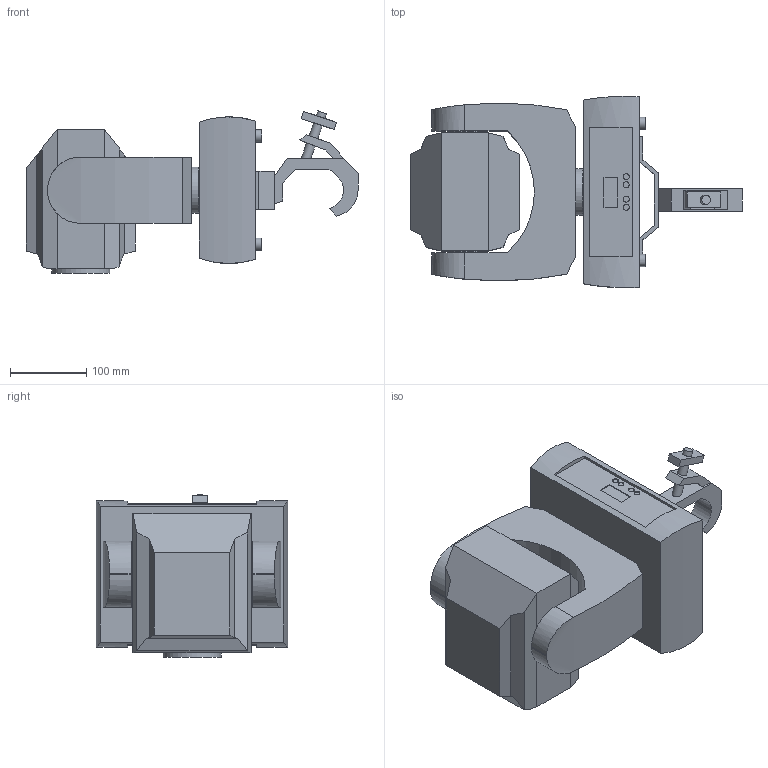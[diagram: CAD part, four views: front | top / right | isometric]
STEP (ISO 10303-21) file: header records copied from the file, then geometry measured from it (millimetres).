
FILE_DESCRIPTION( ( 'Unknown' ), '1' );
FILE_NAME( 'K:/Řada Digital/14 Robin MiniMe/08 3D_2D symbol/3D_RobinMiniMe_90.stp', 'Unknown', ( '*' ), ( '*' ), 'PSStep 15.0.49', 'SolidEdge', ' ' );
FILE_SCHEMA( ( 'AUTOMOTIVE_DESIGN { 1 0 10303 214 1 1 1 1 }' ) );
Length unit declared in the file: millimetre
Products named in the file (8): Omega_SlimClamp_90; Omega+SlimClamp; Clamp Doughty Slimline QT; Assem1; ZákladnaMM; RamenoB100; HlavaMM
Assembly tree (7 placements, depth 3):
  Assem1
    ZákladnaMM
    RamenoB100
    RamenoB100
    HlavaMM
    Omega_SlimClamp_90
      Omega+SlimClamp
      Clamp Doughty Slimline QT
Bounding box: 435.87 x 251.15 x 213.28 mm (x, y, z)
Volume: 9073246.2 mm3; surface area: 487477.8 mm2
Topology: 6 solids, 6 shells, 148 faces, 346 edges, 232 vertices
Faces by surface type: plane 111, cylinder 37
Full cylindrical faces by diameter (mm): 7.832 x4, 11 x4, 12 x4, 13 x2, 16.099 x4, 37.832 x1, 37.907 x2, 60.493 x1, 60.515 x1, 76.185 x1
Entity records: 5464 total; most frequent: CARTESIAN_POINT 855, DIRECTION 680, ORIENTED_EDGE 616, EDGE_CURVE 308, LINE 234, VECTOR 234, AXIS2_PLACEMENT_3D 223, VERTEX_POINT 218
